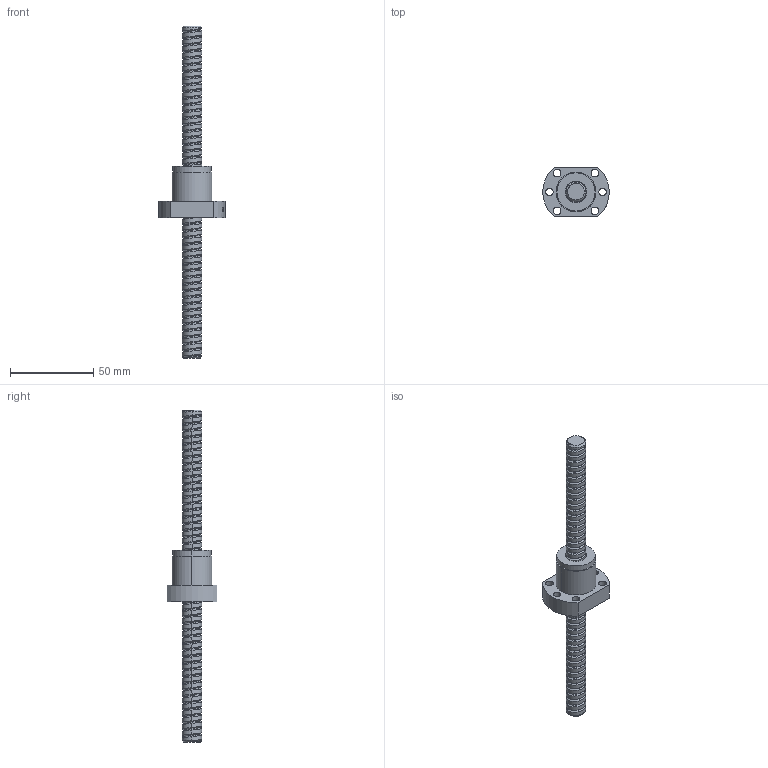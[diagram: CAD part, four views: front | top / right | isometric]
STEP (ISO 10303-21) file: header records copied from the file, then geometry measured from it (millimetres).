
FILE_DESCRIPTION (( 'STEP AP214' ), '1' );
FILE_NAME ('SFU1204 - C-SFU1204.STEP', '2025-04-25T12:30:22', ( '' ), ( '' ), 'SwSTEP 2.0', 'SolidWorks 2019', '' );
FILE_SCHEMA (( 'AUTOMOTIVE_DESIGN' ));
Length unit declared in the file: millimetre
Products named in the file (3): SFU1204 - C-SFU1204; C-SFU12; SFU1204
Assembly tree (2 placements, depth 2):
  SFU1204 - C-SFU1204
    C-SFU12
    SFU1204
Bounding box: 40 x 30 x 200 mm (x, y, z)
Volume: 35815.7 mm3; surface area: 17669.7 mm2
Topology: 4 solids, 4 shells, 171 faces, 517 edges, 360 vertices
Faces by surface type: cylinder 149, plane 10, bspline 6, cone 6
Entity records: 14770 total; most frequent: CARTESIAN_POINT 10568, ORIENTED_EDGE 1034, DIRECTION 670, EDGE_CURVE 517, VERTEX_POINT 360, AXIS2_PLACEMENT_3D 247, EDGE_LOOP 197, LINE 176
